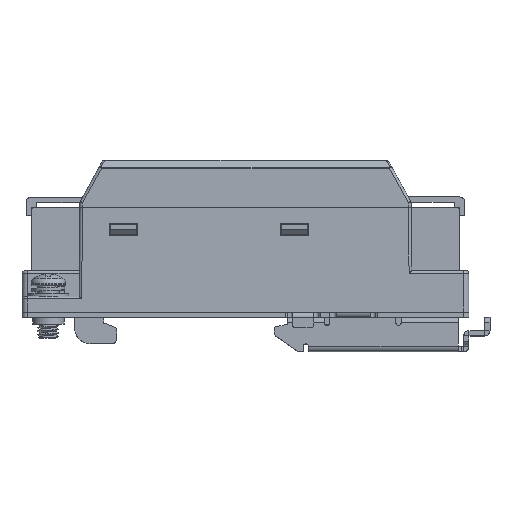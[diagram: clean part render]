
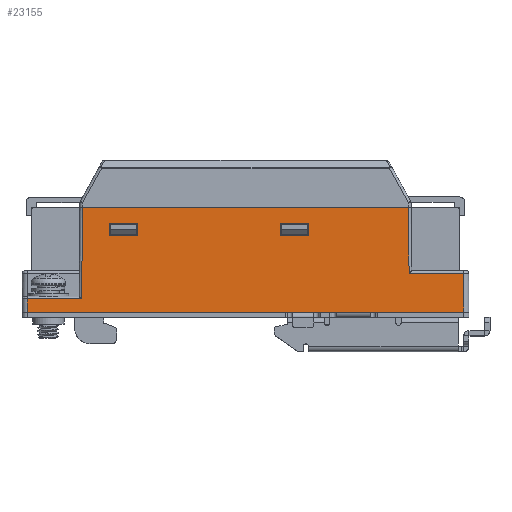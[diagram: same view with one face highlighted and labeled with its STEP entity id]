
A CAD part, top view. The second image highlights one B-rep face of the part: STEP entity #23155.
In plain terms, the highlighted planar face has unit normal (0, 0.009, 1) as drawn and (0, -1, 0.009) by its records, which use the part's own axes.
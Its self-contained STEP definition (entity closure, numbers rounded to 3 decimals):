
#16621=DIRECTION('',(1.,0.,0.));
#16622=VECTOR('',#16621,83.);
#16623=CARTESIAN_POINT('',(58.5,-19.676,-28.9));
#16624=LINE('',#16623,#16622);
#16977=CARTESIAN_POINT('',(58.5,-19.676,-28.9));
#16996=DIRECTION('',(1.,0.,0.));
#16997=VECTOR('',#16996,62.);
#16998=CARTESIAN_POINT('',(69.,-19.503,
-9.));
#16999=LINE('',#16998,#16997);
#17003=DIRECTION('',(0.009,-0.009,-1.));
#17004=VECTOR('',#17003,12.497);
#17005=CARTESIAN_POINT('',(131.,-19.503,
-9.));
#17006=LINE('',#17005,#17004);
#17010=DIRECTION('',(0.009,-0.009,-1.));
#17011=VECTOR('',#17010,7.405);
#17012=CARTESIAN_POINT('',(141.435,-19.612,
-21.496));
#17013=LINE('',#17012,#17011);
#17017=DIRECTION('',(0.009,0.009,1.));
#17018=VECTOR('',#17017,2.505);
#17019=CARTESIAN_POINT('',(58.5,-19.676,-28.9));
#17020=LINE('',#17019,#17018);
#17024=DIRECTION('',(0.009,0.009,1.));
#17025=VECTOR('',#17024,17.397);
#17026=CARTESIAN_POINT('',(68.848,-19.654,
-26.396));
#17027=LINE('',#17026,#17025);
#17588=DIRECTION('',(-1.,0.,0.));
#17589=VECTOR('',#17588,10.326);
#17590=CARTESIAN_POINT('',(141.435,-19.612,
-21.496));
#17591=LINE('',#17590,#17589);
#19115=DIRECTION('',(0.,-0.009,-1.));
#19116=VECTOR('',#19115,2.4);
#19117=CARTESIAN_POINT('',(79.5,-19.529,-12.));
#19118=LINE('',#19117,#19116);
#19136=DIRECTION('',(-1.,0.,0.));
#19137=VECTOR('',#19136,5.4);
#19138=CARTESIAN_POINT('',(79.5,-19.55,-14.4));
#19139=LINE('',#19138,#19137);
#19150=DIRECTION('',(0.,0.009,1.));
#19151=VECTOR('',#19150,2.4);
#19152=CARTESIAN_POINT('',(74.1,-19.55,-14.4));
#19153=LINE('',#19152,#19151);
#19164=DIRECTION('',(1.,0.,0.));
#19165=VECTOR('',#19164,5.4);
#19166=CARTESIAN_POINT('',(74.1,-19.529,-12.));
#19167=LINE('',#19166,#19165);
#19314=DIRECTION('',(-1.,0.,0.));
#19315=VECTOR('',#19314,5.4);
#19316=CARTESIAN_POINT('',(112.,-19.55,-14.4));
#19317=LINE('',#19316,#19315);
#19328=DIRECTION('',(0.,-0.009,-1.));
#19329=VECTOR('',#19328,2.4);
#19330=CARTESIAN_POINT('',(112.,-19.529,-12.));
#19331=LINE('',#19330,#19329);
#19342=DIRECTION('',(1.,0.,0.));
#19343=VECTOR('',#19342,5.4);
#19344=CARTESIAN_POINT('',(106.6,-19.529,-12.));
#19345=LINE('',#19344,#19343);
#19356=DIRECTION('',(0.,0.009,1.));
#19357=VECTOR('',#19356,2.4);
#19358=CARTESIAN_POINT('',(106.6,-19.55,-14.4));
#19359=LINE('',#19358,#19357);
#21254=DIRECTION('',(-1.,0.,0.));
#21255=VECTOR('',#21254,10.326);
#21256=CARTESIAN_POINT('',(68.848,-19.654,
-26.396));
#21257=LINE('',#21256,#21255);
#22007=VERTEX_POINT('',#16977);
#22008=CARTESIAN_POINT('',(141.5,-19.676,-28.9));
#22009=VERTEX_POINT('',#22008);
#22128=CARTESIAN_POINT('',(58.522,-19.654,
-26.396));
#22129=VERTEX_POINT('',#22128);
#22130=CARTESIAN_POINT('',(69.,-19.503,
-9.));
#22131=CARTESIAN_POINT('',(131.,-19.503,
-9.));
#22132=VERTEX_POINT('',#22130);
#22133=VERTEX_POINT('',#22131);
#22134=CARTESIAN_POINT('',(131.109,-19.612,
-21.496));
#22135=VERTEX_POINT('',#22134);
#22136=CARTESIAN_POINT('',(141.435,-19.612,
-21.496));
#22137=VERTEX_POINT('',#22136);
#22138=CARTESIAN_POINT('',(68.848,-19.654,
-26.396));
#22139=VERTEX_POINT('',#22138);
#22140=CARTESIAN_POINT('',(74.1,-19.55,-14.4));
#22141=CARTESIAN_POINT('',(74.1,-19.529,-12.));
#22142=VERTEX_POINT('',#22140);
#22143=VERTEX_POINT('',#22141);
#22144=CARTESIAN_POINT('',(79.5,-19.55,-14.4));
#22145=VERTEX_POINT('',#22144);
#22146=CARTESIAN_POINT('',(79.5,-19.529,-12.));
#22147=VERTEX_POINT('',#22146);
#22148=CARTESIAN_POINT('',(106.6,-19.529,-12.));
#22149=CARTESIAN_POINT('',(112.,-19.529,-12.));
#22150=VERTEX_POINT('',#22148);
#22151=VERTEX_POINT('',#22149);
#22152=CARTESIAN_POINT('',(106.6,-19.55,-14.4));
#22153=VERTEX_POINT('',#22152);
#22154=CARTESIAN_POINT('',(112.,-19.55,-14.4));
#22155=VERTEX_POINT('',#22154);
#23114=CARTESIAN_POINT('',(100.,-19.676,-28.897));
#23115=DIRECTION('',(0.,1.,-0.009));
#23116=DIRECTION('',(0.,0.009,1.));
#23117=AXIS2_PLACEMENT_3D('',#23114,#23115,#23116);
#23118=PLANE('',#23117);
#23120=ORIENTED_EDGE('',*,*,#23119,.T.);
#23122=ORIENTED_EDGE('',*,*,#23121,.T.);
#23124=ORIENTED_EDGE('',*,*,#23123,.F.);
#23126=ORIENTED_EDGE('',*,*,#23125,.T.);
#23127=ORIENTED_EDGE('',*,*,#22934,.F.);
#23128=ORIENTED_EDGE('',*,*,#23105,.T.);
#23130=ORIENTED_EDGE('',*,*,#23129,.F.);
#23132=ORIENTED_EDGE('',*,*,#23131,.T.);
#23133=EDGE_LOOP('',(#23120,#23122,#23124,#23126,#23127,#23128,#23130,#23132));
#23134=FACE_OUTER_BOUND('',#23133,.F.);
#23136=ORIENTED_EDGE('',*,*,#23135,.F.);
#23138=ORIENTED_EDGE('',*,*,#23137,.F.);
#23140=ORIENTED_EDGE('',*,*,#23139,.F.);
#23142=ORIENTED_EDGE('',*,*,#23141,.F.);
#23143=EDGE_LOOP('',(#23136,#23138,#23140,#23142));
#23144=FACE_BOUND('',#23143,.F.);
#23146=ORIENTED_EDGE('',*,*,#23145,.F.);
#23148=ORIENTED_EDGE('',*,*,#23147,.F.);
#23150=ORIENTED_EDGE('',*,*,#23149,.F.);
#23152=ORIENTED_EDGE('',*,*,#23151,.F.);
#23153=EDGE_LOOP('',(#23146,#23148,#23150,#23152));
#23154=FACE_BOUND('',#23153,.F.);
#22934=EDGE_CURVE('',#22007,#22009,#16624,.T.);
#23105=EDGE_CURVE('',#22007,#22129,#17020,.T.);
#23119=EDGE_CURVE('',#22132,#22133,#16999,.T.);
#23121=EDGE_CURVE('',#22133,#22135,#17006,.T.);
#23123=EDGE_CURVE('',#22137,#22135,#17591,.T.);
#23125=EDGE_CURVE('',#22137,#22009,#17013,.T.);
#23129=EDGE_CURVE('',#22139,#22129,#21257,.T.);
#23131=EDGE_CURVE('',#22139,#22132,#17027,.T.);
#23135=EDGE_CURVE('',#22142,#22143,#19153,.T.);
#23137=EDGE_CURVE('',#22145,#22142,#19139,.T.);
#23139=EDGE_CURVE('',#22147,#22145,#19118,.T.);
#23141=EDGE_CURVE('',#22143,#22147,#19167,.T.);
#23145=EDGE_CURVE('',#22150,#22151,#19345,.T.);
#23147=EDGE_CURVE('',#22153,#22150,#19359,.T.);
#23149=EDGE_CURVE('',#22155,#22153,#19317,.T.);
#23151=EDGE_CURVE('',#22151,#22155,#19331,.T.);
#23155=ADVANCED_FACE('',(#23134,#23144,#23154),#23118,.F.);
